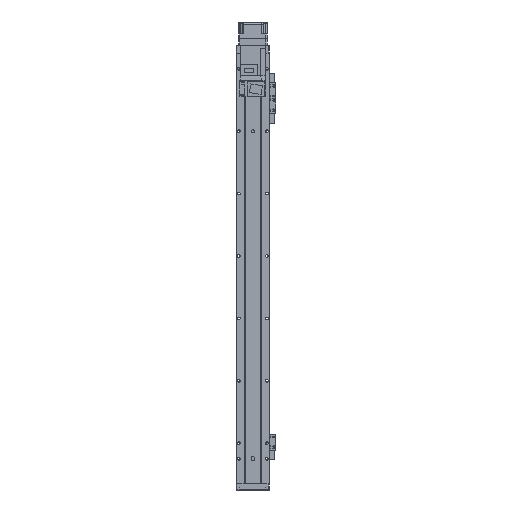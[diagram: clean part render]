
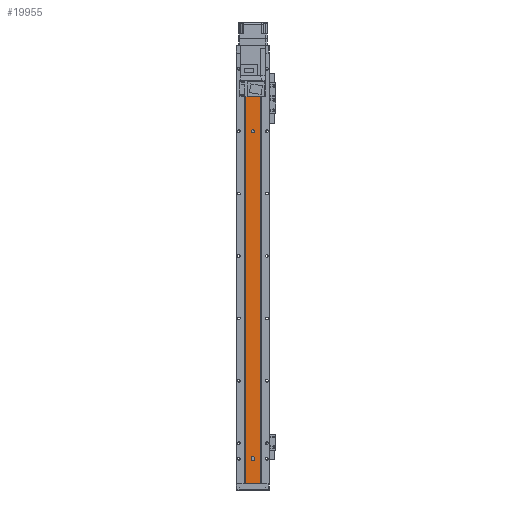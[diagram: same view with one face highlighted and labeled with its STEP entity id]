
A CAD part, front view. The second image highlights one B-rep face of the part: STEP entity #19955.
In plain terms, the highlighted planar face has unit normal (0, -1, 0).
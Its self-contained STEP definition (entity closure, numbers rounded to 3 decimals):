
#374 = CARTESIAN_POINT ( 'NONE',  ( -12.293, 1.5, 0. ) ) ;
#437 = DIRECTION ( 'NONE',  ( 0., -1., 0. ) ) ;
#438 = DIRECTION ( 'NONE',  ( 1., 0., 0. ) ) ;
#547 = DIRECTION ( 'NONE',  ( 1., 0., 0. ) ) ;
#800 = EDGE_CURVE ( 'NONE', #23628, #30381, #36034, .T. ) ;
#1222 = ORIENTED_EDGE ( 'NONE', *, *, #13911, .F. ) ;
#1424 = DIRECTION ( 'NONE',  ( 0., -1., 0. ) ) ;
#1801 = EDGE_LOOP ( 'NONE', ( #21438, #26981, #27451, #3083 ) ) ;
#2125 = FACE_BOUND ( 'NONE', #18391, .T. ) ;
#3083 = ORIENTED_EDGE ( 'NONE', *, *, #16309, .F. ) ;
#3439 = ORIENTED_EDGE ( 'NONE', *, *, #25456, .T. ) ;
#3680 = VERTEX_POINT ( 'NONE', #19083 ) ;
#5291 = DIRECTION ( 'NONE',  ( 1., 0., 0. ) ) ;
#6434 = PLANE ( 'NONE',  #7814 ) ;
#7814 = AXIS2_PLACEMENT_3D ( 'NONE', #9613, #15504, #547 ) ;
#9276 = CARTESIAN_POINT ( 'NONE',  ( 2.5, 1.5, -690. ) ) ;
#9507 = CARTESIAN_POINT ( 'NONE',  ( 0., 1.5, -649. ) ) ;
#9613 = CARTESIAN_POINT ( 'NONE',  ( 12.293, 1.5, -690. ) ) ;
#9684 = DIRECTION ( 'NONE',  ( 0., -1., 0. ) ) ;
#10734 = VECTOR ( 'NONE', #30368, 1000. ) ;
#11088 = EDGE_CURVE ( 'NONE', #30381, #23628, #14389, .T. ) ;
#11357 = EDGE_LOOP ( 'NONE', ( #19839, #34528, #17300, #3439 ) ) ;
#11559 = CIRCLE ( 'NONE', #31169, 2.5 ) ;
#11916 = VERTEX_POINT ( 'NONE', #32776 ) ;
#12400 = LINE ( 'NONE', #16021, #35487 ) ;
#12718 = DIRECTION ( 'NONE',  ( 1., 0., 0. ) ) ;
#12780 = DIRECTION ( 'NONE',  ( 0., 0., -1. ) ) ;
#13065 = EDGE_CURVE ( 'NONE', #35650, #3680, #34433, .T. ) ;
#13748 = CARTESIAN_POINT ( 'NONE',  ( 0., 1.5, -125. ) ) ;
#13898 = CARTESIAN_POINT ( 'NONE',  ( 2.5, 1.5, -25. ) ) ;
#13911 = EDGE_CURVE ( 'NONE', #3680, #35650, #11559, .T. ) ;
#14357 = CARTESIAN_POINT ( 'NONE',  ( 0., 1.5, -25. ) ) ;
#14389 = CIRCLE ( 'NONE', #36372, 2.5 ) ;
#14458 = DIRECTION ( 'NONE',  ( 1., 0., 0. ) ) ;
#14850 = EDGE_CURVE ( 'NONE', #11916, #38145, #12400, .T. ) ;
#15106 = LINE ( 'NONE', #38510, #22249 ) ;
#15504 = DIRECTION ( 'NONE',  ( 0., -1., 0. ) ) ;
#15826 = EDGE_CURVE ( 'NONE', #32175, #28897, #32998, .T. ) ;
#16021 = CARTESIAN_POINT ( 'NONE',  ( -2.5, 1.5, -690. ) ) ;
#16309 = EDGE_CURVE ( 'NONE', #29002, #33007, #25804, .T. ) ;
#16786 = FACE_BOUND ( 'NONE', #38216, .T. ) ;
#17031 = DIRECTION ( 'NONE',  ( 1., 0., 0. ) ) ;
#17095 = CIRCLE ( 'NONE', #33093, 2.5 ) ;
#17280 = DIRECTION ( 'NONE',  ( 1., 0., 0. ) ) ;
#17300 = ORIENTED_EDGE ( 'NONE', *, *, #15826, .T. ) ;
#17922 = CARTESIAN_POINT ( 'NONE',  ( 12.293, 1.5, -690. ) ) ;
#18391 = EDGE_LOOP ( 'NONE', ( #28866, #27970 ) ) ;
#18992 = AXIS2_PLACEMENT_3D ( 'NONE', #36007, #36415, #33370 ) ;
#19075 = CARTESIAN_POINT ( 'NONE',  ( -2.5, 1.5, -651. ) ) ;
#19083 = CARTESIAN_POINT ( 'NONE',  ( 2.5, 1.5, -125. ) ) ;
#19205 = CARTESIAN_POINT ( 'NONE',  ( -2.5, 1.5, -125. ) ) ;
#19835 = VECTOR ( 'NONE', #14458, 1000. ) ;
#19839 = ORIENTED_EDGE ( 'NONE', *, *, #30120, .F. ) ;
#19955 = ADVANCED_FACE ( 'NONE', ( #39024, #16786, #2125, #26259 ), #6434, .T. ) ;
#21438 = ORIENTED_EDGE ( 'NONE', *, *, #34598, .F. ) ;
#21494 = CARTESIAN_POINT ( 'NONE',  ( 2.5, 1.5, -649. ) ) ;
#21839 = CARTESIAN_POINT ( 'NONE',  ( 0., 1.5, -651. ) ) ;
#21861 = VERTEX_POINT ( 'NONE', #374 ) ;
#22249 = VECTOR ( 'NONE', #38372, 1000. ) ;
#23628 = VERTEX_POINT ( 'NONE', #13898 ) ;
#24762 = CARTESIAN_POINT ( 'NONE',  ( -2.5, 1.5, -25. ) ) ;
#25456 = EDGE_CURVE ( 'NONE', #28897, #30541, #26287, .T. ) ;
#25469 = CARTESIAN_POINT ( 'NONE',  ( -12.293, 1.5, -690. ) ) ;
#25498 = LINE ( 'NONE', #34901, #19835 ) ;
#25804 = LINE ( 'NONE', #9276, #10734 ) ;
#26259 = FACE_OUTER_BOUND ( 'NONE', #11357, .T. ) ;
#26287 = LINE ( 'NONE', #29027, #28183 ) ;
#26981 = ORIENTED_EDGE ( 'NONE', *, *, #14850, .F. ) ;
#27309 = DIRECTION ( 'NONE',  ( 0., -1., 0. ) ) ;
#27441 = CARTESIAN_POINT ( 'NONE',  ( 2.5, 1.5, -651. ) ) ;
#27451 = ORIENTED_EDGE ( 'NONE', *, *, #29868, .F. ) ;
#27897 = ORIENTED_EDGE ( 'NONE', *, *, #13065, .F. ) ;
#27900 = EDGE_CURVE ( 'NONE', #32175, #21861, #15106, .T. ) ;
#27970 = ORIENTED_EDGE ( 'NONE', *, *, #11088, .F. ) ;
#27971 = DIRECTION ( 'NONE',  ( 1., 0., 0. ) ) ;
#28183 = VECTOR ( 'NONE', #31924, 1000. ) ;
#28866 = ORIENTED_EDGE ( 'NONE', *, *, #800, .F. ) ;
#28897 = VERTEX_POINT ( 'NONE', #17922 ) ;
#29002 = VERTEX_POINT ( 'NONE', #27441 ) ;
#29027 = CARTESIAN_POINT ( 'NONE',  ( 12.293, 1.5, -690. ) ) ;
#29868 = EDGE_CURVE ( 'NONE', #33007, #11916, #35354, .T. ) ;
#30120 = EDGE_CURVE ( 'NONE', #21861, #30541, #25498, .T. ) ;
#30368 = DIRECTION ( 'NONE',  ( 0., 0., 1. ) ) ;
#30381 = VERTEX_POINT ( 'NONE', #24762 ) ;
#30541 = VERTEX_POINT ( 'NONE', #34227 ) ;
#30962 = AXIS2_PLACEMENT_3D ( 'NONE', #9507, #437, #27971 ) ;
#31169 = AXIS2_PLACEMENT_3D ( 'NONE', #13748, #1424, #17031 ) ;
#31924 = DIRECTION ( 'NONE',  ( 0., 0., 1. ) ) ;
#32175 = VERTEX_POINT ( 'NONE', #25469 ) ;
#32776 = CARTESIAN_POINT ( 'NONE',  ( -2.5, 1.5, -649. ) ) ;
#32893 = AXIS2_PLACEMENT_3D ( 'NONE', #39181, #27309, #438 ) ;
#32998 = LINE ( 'NONE', #35103, #38219 ) ;
#33007 = VERTEX_POINT ( 'NONE', #21494 ) ;
#33093 = AXIS2_PLACEMENT_3D ( 'NONE', #21839, #9684, #12718 ) ;
#33370 = DIRECTION ( 'NONE',  ( 1., 0., 0. ) ) ;
#34227 = CARTESIAN_POINT ( 'NONE',  ( 12.293, 1.5, 0. ) ) ;
#34433 = CIRCLE ( 'NONE', #32893, 2.5 ) ;
#34528 = ORIENTED_EDGE ( 'NONE', *, *, #27900, .F. ) ;
#34598 = EDGE_CURVE ( 'NONE', #38145, #29002, #17095, .T. ) ;
#34901 = CARTESIAN_POINT ( 'NONE',  ( 12.293, 1.5, 0. ) ) ;
#35103 = CARTESIAN_POINT ( 'NONE',  ( 12.293, 1.5, -690. ) ) ;
#35354 = CIRCLE ( 'NONE', #30962, 2.5 ) ;
#35487 = VECTOR ( 'NONE', #12780, 1000. ) ;
#35650 = VERTEX_POINT ( 'NONE', #19205 ) ;
#36007 = CARTESIAN_POINT ( 'NONE',  ( 0., 1.5, -25. ) ) ;
#36034 = CIRCLE ( 'NONE', #18992, 2.5 ) ;
#36372 = AXIS2_PLACEMENT_3D ( 'NONE', #14357, #38410, #17280 ) ;
#36415 = DIRECTION ( 'NONE',  ( 0., -1., 0. ) ) ;
#38145 = VERTEX_POINT ( 'NONE', #19075 ) ;
#38216 = EDGE_LOOP ( 'NONE', ( #1222, #27897 ) ) ;
#38219 = VECTOR ( 'NONE', #5291, 1000. ) ;
#38372 = DIRECTION ( 'NONE',  ( 0., 0., 1. ) ) ;
#38410 = DIRECTION ( 'NONE',  ( 0., -1., 0. ) ) ;
#38510 = CARTESIAN_POINT ( 'NONE',  ( -12.293, 1.5, -690. ) ) ;
#39024 = FACE_BOUND ( 'NONE', #1801, .T. ) ;
#39181 = CARTESIAN_POINT ( 'NONE',  ( 0., 1.5, -125. ) ) ;
